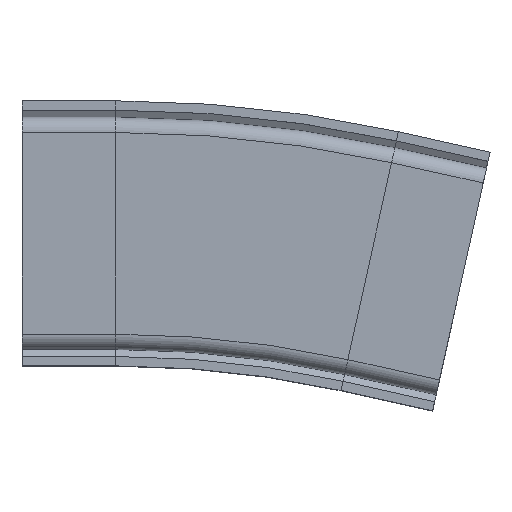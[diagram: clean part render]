
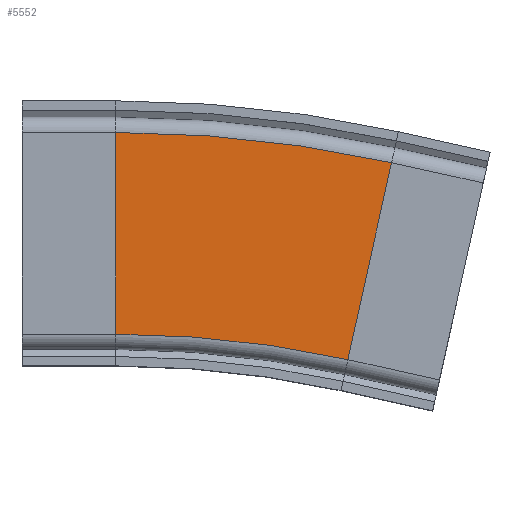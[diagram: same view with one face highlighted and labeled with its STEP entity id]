
A CAD part, top view. The second image highlights one B-rep face of the part: STEP entity #5552.
In plain terms, the highlighted planar face has unit normal (0, 0, 1).
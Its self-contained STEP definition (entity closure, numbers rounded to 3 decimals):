
#121 = EDGE_CURVE ( 'NONE', #3997, #5082, #3676, .T. ) ;
#331 = EDGE_CURVE ( 'NONE', #5082, #1104, #377, .T. ) ;
#342 = CIRCLE ( 'NONE', #4585, 457. ) ;
#377 = LINE ( 'NONE', #4415, #2634 ) ;
#389 = ORIENTED_EDGE ( 'NONE', *, *, #1974, .F. ) ;
#488 = AXIS2_PLACEMENT_3D ( 'NONE', #5365, #4018, #5302 ) ;
#770 = CARTESIAN_POINT ( 'NONE',  ( 40., 43., 42.5 ) ) ;
#913 = PLANE ( 'NONE',  #488 ) ;
#943 = ORIENTED_EDGE ( 'NONE', *, *, #121, .T. ) ;
#996 = CARTESIAN_POINT ( 'NONE',  ( 157.527, 30.129, 42.5 ) ) ;
#1104 = VERTEX_POINT ( 'NONE', #3753 ) ;
#1246 = DIRECTION ( 'NONE',  ( 0.216, 0.976, 0. ) ) ;
#1509 = AXIS2_PLACEMENT_3D ( 'NONE', #1597, #5559, #2924 ) ;
#1583 = FACE_OUTER_BOUND ( 'NONE', #3721, .T. ) ;
#1597 = CARTESIAN_POINT ( 'NONE',  ( 40., -500., 42.5 ) ) ;
#1620 = CARTESIAN_POINT ( 'NONE',  ( 138.913, -53.833, 42.5 ) ) ;
#1778 = VECTOR ( 'NONE', #1246, 1000. ) ;
#1906 = EDGE_CURVE ( 'NONE', #2247, #3997, #3512, .T. ) ;
#1974 = EDGE_CURVE ( 'NONE', #2247, #1104, #342, .T. ) ;
#2247 = VERTEX_POINT ( 'NONE', #1620 ) ;
#2625 = DIRECTION ( 'NONE',  ( 0., -1., 0. ) ) ;
#2634 = VECTOR ( 'NONE', #2625, 1000. ) ;
#2644 = DIRECTION ( 'NONE',  ( 0., 0., 1. ) ) ;
#2924 = DIRECTION ( 'NONE',  ( 1., 0., 0. ) ) ;
#3058 = CARTESIAN_POINT ( 'NONE',  ( 138.913, -53.833, 42.5 ) ) ;
#3512 = LINE ( 'NONE', #3058, #1778 ) ;
#3522 = ORIENTED_EDGE ( 'NONE', *, *, #1906, .T. ) ;
#3676 = CIRCLE ( 'NONE', #1509, 543. ) ;
#3721 = EDGE_LOOP ( 'NONE', ( #4007, #389, #3522, #943 ) ) ;
#3753 = CARTESIAN_POINT ( 'NONE',  ( 40., -43., 42.5 ) ) ;
#3997 = VERTEX_POINT ( 'NONE', #996 ) ;
#4007 = ORIENTED_EDGE ( 'NONE', *, *, #331, .T. ) ;
#4018 = DIRECTION ( 'NONE',  ( 0., 0., -1. ) ) ;
#4415 = CARTESIAN_POINT ( 'NONE',  ( 40., 0., 42.5 ) ) ;
#4417 = DIRECTION ( 'NONE',  ( 1., 0., 0. ) ) ;
#4585 = AXIS2_PLACEMENT_3D ( 'NONE', #4903, #2644, #4417 ) ;
#4903 = CARTESIAN_POINT ( 'NONE',  ( 40., -500., 42.5 ) ) ;
#5082 = VERTEX_POINT ( 'NONE', #770 ) ;
#5302 = DIRECTION ( 'NONE',  ( -1., 0., 0. ) ) ;
#5365 = CARTESIAN_POINT ( 'NONE',  ( 138.913, -53.833, 42.5 ) ) ;
#5552 = ADVANCED_FACE ( 'NONE', ( #1583 ), #913, .F. ) ;
#5559 = DIRECTION ( 'NONE',  ( 0., 0., 1. ) ) ;
